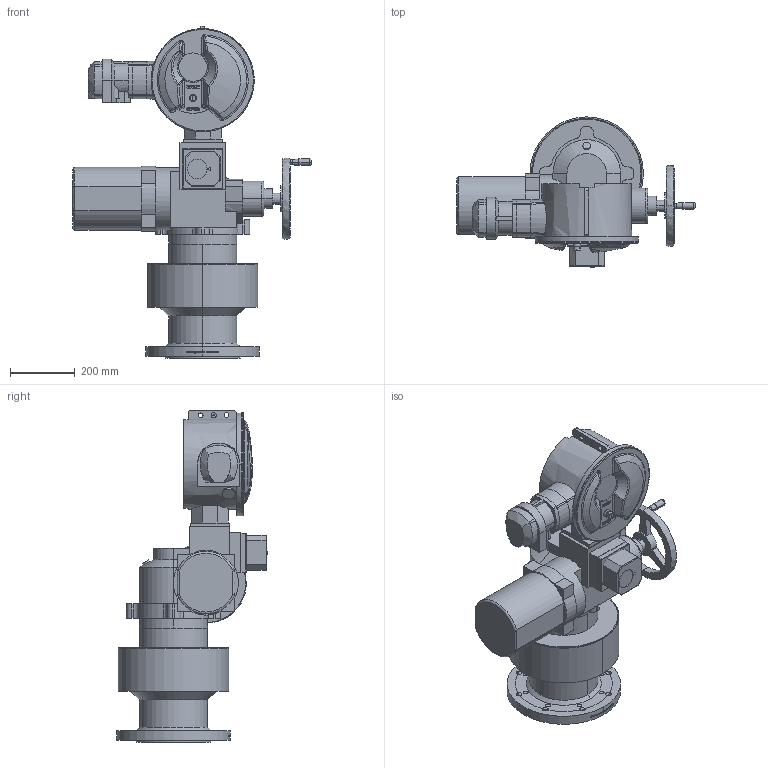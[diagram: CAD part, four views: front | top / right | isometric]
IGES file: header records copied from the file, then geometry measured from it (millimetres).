
Start section: Elysium IGES Interface
Global section: file name: H:\cad\3D-fuer-Kunden\2017_09\2SA7.7_2SA7.8.igs; native system: Creo Elements/Direct Modeling 18.1B  29-Sep-2012; preprocessor: Creo Element/Direct IGES_3D V2.2; author: Unknown; organization: Unknown; date: 20170922.125743; units: millimetre
Bounding box: 734 x 464 x 1023.5 mm (x, y, z)
Volume: 82589679 mm3; surface area: 2595616.8 mm2
Topology: 10 solids, 10 shells, 3178 faces, 8845 edges, 5863 vertices
Faces by surface type: bspline 3178
